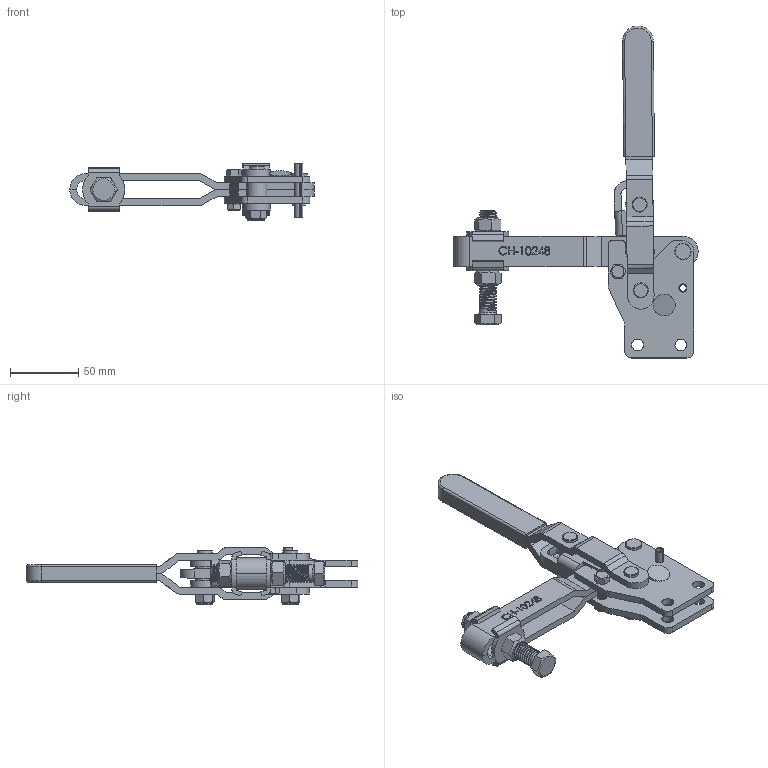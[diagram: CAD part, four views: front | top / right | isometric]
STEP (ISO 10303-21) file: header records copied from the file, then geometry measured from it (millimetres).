
FILE_DESCRIPTION(/* description */ ('STEP AP203'),/* implementation_level */ '2;1');
FILE_NAME(/* name */ 'D:\Vault_2016\Projekty\NASZ KATALOG\CLAMPTEK\STRONA\Vertical toggle clamp\CH-10248\CH-10248_ZAMKNIETY.stp',/* time_stamp */ '2019-01-18T14:24:54+01:00',/* author */ ('CADENGINEERING4'),/* organization */ ('Î¢ÈíÖÐ¹ú'),/* preprocessor_version */ 'ST-DEVELOPER v17.2',/* originating_system */ 'Autodesk Inventor 2019',/* authorisation */ '');
FILE_SCHEMA (('AUTOMOTIVE_DESIGN { 1 0 10303 214 3 1 1 }'));
Products named in the file (18): CH-10248_ZAMKNIETY; CH-10247-09; CH-10248-01 STRAIGHT BASE; CH-10247-10; CH-10247-03 HANDLE; CH-10247-04 CONNECTING-PLATE; CH-10247-07; CH-10248-02 U-BAR; CH-10247-08; CH-SA-12300 SPINDLE SUPPLIED; CH-10247-06; CH-SA-12300 NUT; CH-FW-120; M6X25; CH-10247-11; 3-8-16 LOCK NUT; M6 Nut; CH-10247-05
Assembly tree (23 placements, depth 2):
  CH-10248_ZAMKNIETY
    CH-10247-09
    CH-FW-120  x2
    CH-10248-01 STRAIGHT BASE
    CH-10247-10
    CH-10247-08  x2
    CH-10247-06  x2
    CH-10247-03 HANDLE
    CH-10247-04 CONNECTING-PLATE
    3-8-16 LOCK NUT  x2
    CH-10247-11  x2
    CH-10247-07
    CH-10248-02 U-BAR
    CH-SA-12300 SPINDLE SUPPLIED
    CH-SA-12300 NUT  x2
    M6X25
    M6 Nut
    CH-10247-05
Bounding box: 179.51 x 243.78 x 42.5 mm (x, y, z)
Volume: 172453.7 mm3; surface area: 108481.9 mm2
Topology: 26 solids, 26 shells, 842 faces, 2360 edges, 1607 vertices
Faces by surface type: plane 360, cylinder 221, bspline 191, cone 64, torus 6
Full cylindrical faces by diameter (mm): 3.6 x1, 4.264 x1, 4.8 x5, 6 x24, 6.6 x2, 8 x8, 8.5 x8, 8.7 x4, 9.5 x16, 10.5 x8, 11 x8, 12 x4, 12.3 x4, 12.7 x36, 12.8 x1, 13 x2, 15 x1
Entity records: 60626 total; most frequent: CARTESIAN_POINT 41826, ORIENTED_EDGE 4206, DIRECTION 3094, EDGE_CURVE 2103, VERTEX_POINT 1430, LINE 1072, VECTOR 1072, AXIS2_PLACEMENT_3D 1011
